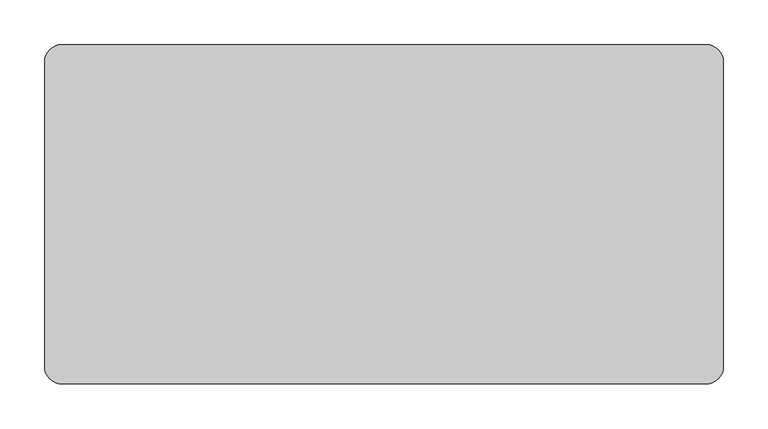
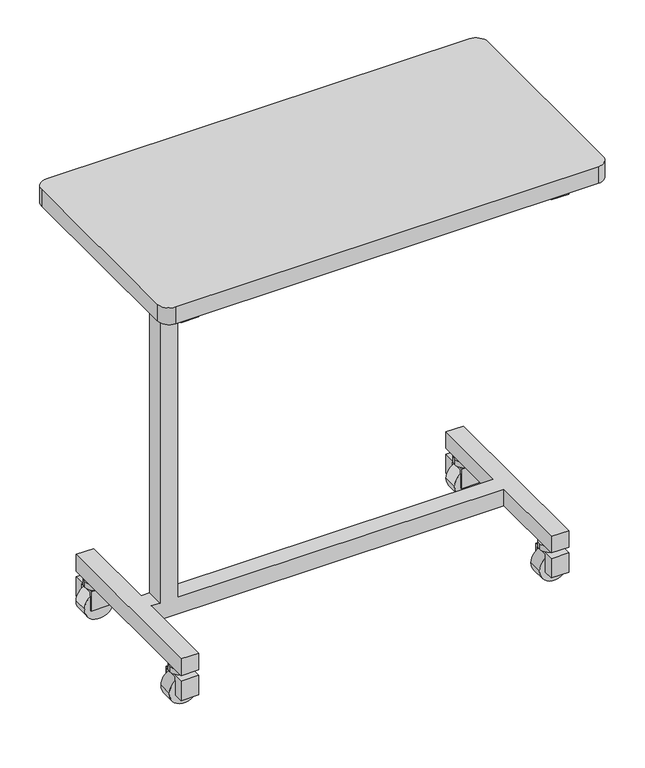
"""IFC4 building model written with IfcOpenShell, lengths in millimetres: proxy geometry, BIMHealth-Table_Overbed-LOD2A-v1 : BIMHealth-Table_Overbed-LOD2A-v1."""

from ifc_helpers import new_model, si_unit, point, frame, frame_2d, origin, place, context, project, spatial, polyline, circle_curve, trimmed, segment, composite_curve, outline, extrude, faceted_brep, source, transform, mapped, element, save


def generic_models_cb7718f0(model_context):
    return source(origin(), model_context, "Body", "SolidModel", [
        faceted_brep([(50.0, -35.0, 732.0), (50.0, -346.0, 732.0), (80.0, -346.0, 732.0), (80.0, -205.5, 732.0), (682.0, -205.5, 732.0), (682.0, -346.0, 732.0), (712.0, -346.0, 732.0), (712.0, -35.0, 732.0), (682.0, -35.0, 732.0), (682.0, -175.5, 732.0), (80.0, -175.5, 732.0), (80.0, -35.0, 732.0), (50.0, -35.0, 702.0), (80.0, -35.0, 702.0), (80.0, -175.5, 702.0), (95.0, -175.5, 702.0), (95.0, -205.5, 702.0), (80.0, -205.5, 702.0), (80.0, -346.0, 702.0), (50.0, -346.0, 702.0), (682.0, -175.5, 702.0), (682.0, -35.0, 702.0), (712.0, -35.0, 702.0), (712.0, -346.0, 702.0), (682.0, -346.0, 702.0), (682.0, -205.5, 702.0), (125.0, -205.5, 702.0), (125.0, -175.5, 702.0), (95.0, -205.5, 95.0), (80.0, -205.5, 95.0), (80.0, -205.5, 65.0), (682.0, -205.5, 65.0), (682.0, -205.5, 95.0), (125.0, -205.5, 95.0), (125.0, -175.5, 95.0), (682.0, -175.5, 95.0), (682.0, -175.5, 65.0), (80.0, -175.5, 65.0), (80.0, -175.5, 95.0), (95.0, -175.5, 95.0), (50.0, -35.0, 95.0), (50.0, -346.0, 95.0), (80.0, -346.0, 95.0), (80.0, -35.0, 95.0), (682.0, -346.0, 95.0), (712.0, -346.0, 95.0), (712.0, -35.0, 95.0), (682.0, -35.0, 95.0), (50.0, -35.0, 65.0), (80.0, -35.0, 65.0), (682.0, -35.0, 65.0), (712.0, -35.0, 65.0), (712.0, -346.0, 65.0), (682.0, -346.0, 65.0), (80.0, -346.0, 65.0), (50.0, -346.0, 65.0)], [[[0, 1, 2, 3, 4, 5, 6, 7, 8, 9, 10, 11]], [[12, 13, 14, 15, 16, 17, 18, 19]], [[20, 21, 22, 23, 24, 25, 26, 27]], [[1, 0, 12, 19]], [[2, 1, 19, 18]], [[3, 2, 18, 17]], [[4, 3, 17, 16, 28, 29, 30, 31, 32, 33, 26, 25]], [[5, 4, 25, 24]], [[6, 5, 24, 23]], [[7, 6, 23, 22]], [[8, 7, 22, 21]], [[9, 8, 21, 20]], [[10, 9, 20, 27, 34, 35, 36, 37, 38, 39, 15, 14]], [[11, 10, 14, 13]], [[0, 11, 13, 12]], [[26, 33, 34, 27]], [[28, 16, 15, 39]], [[40, 41, 42, 29, 28, 39, 38, 43]], [[32, 44, 45, 46, 47, 35, 34, 33]], [[48, 49, 37, 36, 50, 51, 52, 53, 31, 30, 54, 55]], [[41, 40, 48, 55]], [[42, 41, 55, 54]], [[29, 42, 54, 30]], [[44, 32, 31, 53]], [[45, 44, 53, 52]], [[46, 45, 52, 51]], [[47, 46, 51, 50]], [[35, 47, 50, 36]], [[43, 38, 37, 49]], [[40, 43, 49, 48]]]),
        extrude(outline(composite_curve([segment(trimmed(circle_curve(frame_2d((697.0, -316.0)), 17.5), [point((714.5, -316.0))], [point((679.5, -316.0))], False, "CARTESIAN"), True, "CONTINUOUS"), segment(trimmed(circle_curve(frame_2d((697.0, -316.0)), 17.5), [point((679.5, -316.0))], [point((714.5, -316.0))], False, "CARTESIAN"), True, "CONTINUOUS")], self_intersect=False)), frame((0.0, 0.0, 55.0), z_axis=(0.0, 0.0, 1.0), x_axis=(1.0, 0.0, 0.0)), (0.0, 0.0, 1.0), 10.0),
        extrude(outline(composite_curve([segment(trimmed(circle_curve(frame_2d((25.0, 697.0)), 25.0), [point((25.0, 722.0))], [point((25.0, 672.0))], False, "CARTESIAN"), True, "CONTINUOUS"), segment(trimmed(circle_curve(frame_2d((25.0, 697.0)), 25.0), [point((25.0, 672.0))], [point((25.0, 722.0))], False, "CARTESIAN"), True, "CONTINUOUS")], self_intersect=False)), frame((0.0, -328.5, 0.0), z_axis=(0.0, 1.0, 0.0), x_axis=(0.0, 0.0, 1.0)), (0.0, 0.0, 1.0), 25.0),
        extrude(outline(polyline([(-346.0, 20.0), (-346.0, 55.0), (-301.0, 55.0), (-301.0, 20.0), (-303.5, 20.0), (-303.5, 52.5), (-328.5, 52.5), (-328.5, 20.0), (-346.0, 20.0)])), frame((682.0, 0.0, 0.0), z_axis=(1.0, 0.0, 0.0), x_axis=(0.0, 1.0, 0.0)), (0.0, 0.0, 1.0), 30.0),
        extrude(outline(composite_curve([segment(trimmed(circle_curve(frame_2d((65.0, -316.0)), 17.5), [point((47.5, -316.0))], [point((82.5, -316.0))], False, "CARTESIAN"), True, "CONTINUOUS"), segment(trimmed(circle_curve(frame_2d((65.0, -316.0)), 17.5), [point((82.5, -316.0))], [point((47.5, -316.0))], False, "CARTESIAN"), True, "CONTINUOUS")], self_intersect=False)), frame((0.0, 0.0, 55.0), z_axis=(0.0, 0.0, 1.0), x_axis=(1.0, 0.0, 0.0)), (0.0, 0.0, 1.0), 10.0),
        extrude(outline(composite_curve([segment(trimmed(circle_curve(frame_2d((25.0, 65.0)), 25.0), [point((25.0, 40.0))], [point((25.0, 90.0))], False, "CARTESIAN"), True, "CONTINUOUS"), segment(trimmed(circle_curve(frame_2d((25.0, 65.0)), 25.0), [point((25.0, 90.0))], [point((25.0, 40.0))], False, "CARTESIAN"), True, "CONTINUOUS")], self_intersect=False)), frame((0.0, -328.5, 0.0), z_axis=(0.0, 1.0, 0.0), x_axis=(0.0, 0.0, 1.0)), (0.0, 0.0, 1.0), 25.0),
        extrude(outline(polyline([(-346.0, 20.0), (-346.0, 55.0), (-301.0, 55.0), (-301.0, 20.0), (-303.5, 20.0), (-303.5, 52.5), (-328.5, 52.5), (-328.5, 20.0), (-346.0, 20.0)])), frame((50.0, 0.0, 0.0), z_axis=(1.0, 0.0, 0.0), x_axis=(0.0, 1.0, 0.0)), (0.0, 0.0, 1.0), 30.0),
        extrude(outline(composite_curve([segment(trimmed(circle_curve(frame_2d((697.0, -65.0)), 17.5), [point((714.5, -65.0))], [point((679.5, -65.0))], False, "CARTESIAN"), True, "CONTINUOUS"), segment(trimmed(circle_curve(frame_2d((697.0, -65.0)), 17.5), [point((679.5, -65.0))], [point((714.5, -65.0))], False, "CARTESIAN"), True, "CONTINUOUS")], self_intersect=False)), frame((0.0, 0.0, 55.0), z_axis=(0.0, 0.0, 1.0), x_axis=(1.0, 0.0, 0.0)), (0.0, 0.0, 1.0), 10.0),
        extrude(outline(composite_curve([segment(trimmed(circle_curve(frame_2d((25.0, 697.0)), 25.0), [point((25.0, 722.0))], [point((25.0, 672.0))], False, "CARTESIAN"), True, "CONTINUOUS"), segment(trimmed(circle_curve(frame_2d((25.0, 697.0)), 25.0), [point((25.0, 672.0))], [point((25.0, 722.0))], False, "CARTESIAN"), True, "CONTINUOUS")], self_intersect=False)), frame((0.0, -77.5, 0.0), z_axis=(0.0, 1.0, 0.0), x_axis=(0.0, 0.0, 1.0)), (0.0, 0.0, 1.0), 25.0),
        extrude(outline(polyline([(-35.0, 20.0), (-52.5, 20.0), (-52.5, 52.5), (-77.5, 52.5), (-77.5, 20.0), (-80.0, 20.0), (-80.0, 55.0), (-35.0, 55.0), (-35.0, 20.0)])), frame((682.0, 0.0, 0.0), z_axis=(1.0, 0.0, 0.0), x_axis=(0.0, 1.0, 0.0)), (0.0, 0.0, 1.0), 30.0),
        extrude(outline(composite_curve([segment(trimmed(circle_curve(frame_2d((65.0, -65.0)), 17.5), [point((47.5, -65.0))], [point((82.5, -65.0))], False, "CARTESIAN"), True, "CONTINUOUS"), segment(trimmed(circle_curve(frame_2d((65.0, -65.0)), 17.5), [point((82.5, -65.0))], [point((47.5, -65.0))], False, "CARTESIAN"), True, "CONTINUOUS")], self_intersect=False)), frame((0.0, 0.0, 55.0), z_axis=(0.0, 0.0, 1.0), x_axis=(1.0, 0.0, 0.0)), (0.0, 0.0, 1.0), 10.0),
        extrude(outline(composite_curve([segment(trimmed(circle_curve(frame_2d((25.0, 65.0)), 25.0), [point((25.0, 40.0))], [point((25.0, 90.0))], False, "CARTESIAN"), True, "CONTINUOUS"), segment(trimmed(circle_curve(frame_2d((25.0, 65.0)), 25.0), [point((25.0, 90.0))], [point((25.0, 40.0))], False, "CARTESIAN"), True, "CONTINUOUS")], self_intersect=False)), frame((0.0, -77.5, 0.0), z_axis=(0.0, 1.0, 0.0), x_axis=(0.0, 0.0, 1.0)), (0.0, 0.0, 1.0), 25.0),
        extrude(outline(polyline([(-35.0, 20.0), (-52.5, 20.0), (-52.5, 52.5), (-77.5, 52.5), (-77.5, 20.0), (-80.0, 20.0), (-80.0, 55.0), (-35.0, 55.0), (-35.0, 20.0)])), frame((50.0, 0.0, 0.0), z_axis=(1.0, 0.0, 0.0), x_axis=(0.0, 1.0, 0.0)), (0.0, 0.0, 1.0), 30.0),
        extrude(outline(composite_curve([segment(trimmed(circle_curve(frame_2d((742.0, -20.0)), 20.0), [point((742.0, 0.0))], [point((762.0, -20.0))], False, "CARTESIAN"), True, "CONTINUOUS"), segment(polyline([(762.0, -20.0), (762.0, -361.0)]), True, "CONTINUOUS"), segment(trimmed(circle_curve(frame_2d((742.0, -361.0)), 20.0), [point((762.0, -361.0))], [point((742.0, -381.0))], False, "CARTESIAN"), True, "CONTINUOUS"), segment(polyline([(742.0, -381.0), (20.0, -381.0)]), True, "CONTINUOUS"), segment(trimmed(circle_curve(frame_2d((20.0, -361.0)), 20.0), [point((20.0, -381.0))], [point((0.0, -361.0))], False, "CARTESIAN"), True, "CONTINUOUS"), segment(polyline([(0.0, -361.0), (0.0, -20.0)]), True, "CONTINUOUS"), segment(trimmed(circle_curve(frame_2d((20.0, -20.0)), 20.0), [point((0.0, -20.0))], [point((20.0, 0.0))], False, "CARTESIAN"), True, "CONTINUOUS"), segment(polyline([(20.0, 0.0), (742.0, 0.0)]), True, "CONTINUOUS")], self_intersect=False)), frame((0.0, 0.0, 732.0), z_axis=(0.0, 0.0, 1.0), x_axis=(1.0, 0.0, 0.0)), (0.0, 0.0, 1.0), 30.0),
    ])


if __name__ == "__main__":
    model = new_model("IFC4")
    model_context = context("Model", 3, world=origin())
    ifc_project = project(units=[si_unit("LENGTHUNIT", "METRE", prefix="MILLI")], contexts=[model_context])
    site = spatial("IfcSite", under=ifc_project)
    building = spatial("IfcBuilding", under=site)
    placement = place(None, origin())
    generic_models_shape = generic_models_cb7718f0(model_context)
    element("IfcBuildingElementProxy", 1, Name="BIMHealth-Table_Overbed-LOD2A-v1 : BIMHealth-Table_Overbed-LOD2A-v1", ObjectType="BIMHealth-Table_Overbed-LOD2A-v1 : BIMHealth-Table_Overbed-LOD2A-v1", at=placement, inside=building, context=model_context, shape_type="MappedRepresentation", body=[
        mapped(generic_models_shape, transform((0.0, 0.0, 0.0), x_axis=(1.0, 0.0, 0.0), y_axis=(0.0, 1.0, 0.0), z_axis=(0.0, 0.0, 1.0))),
    ])
    save(model, "model.ifc")
